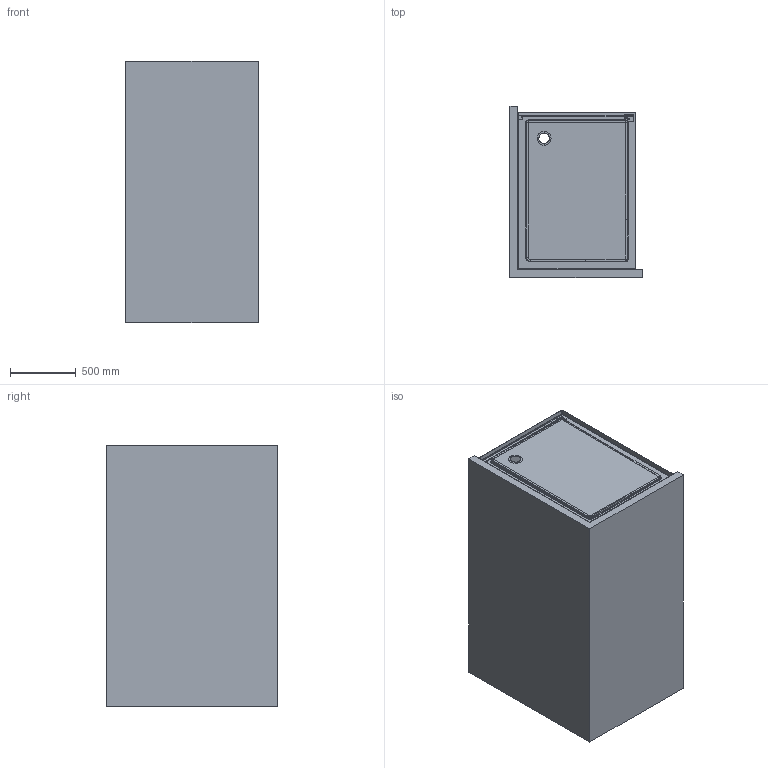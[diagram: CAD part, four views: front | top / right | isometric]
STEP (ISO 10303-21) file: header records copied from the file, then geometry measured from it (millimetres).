
FILE_DESCRIPTION((''),'2;1');
FILE_NAME('1631__ASM','2019-08-23T',('Administrator'),(''),'CREO PARAMETRIC BY PTC INC, 2014190','CREO PARAMETRIC BY PTC INC, 2014190','');
FILE_SCHEMA(('AUTOMOTIVE_DESIGN { 1 0 10303 214 1 1 1 1 }'));
Length unit declared in the file: millimetre
Products named in the file (17): BL_G_2_1_1_1_1; PRT0027_G_3_1_1_1_1; PRT0025DF_G_6_1_1_1_1; 296_G_3_1_1_2_1_1; L295_G_3_1_1_1_1_1; Q_G_5_1_1_1_1_1; HL_1_1_1_1_1; 1200_2_1_1_1_1_1; PRT0028__2_1_1_1_1; GZ1_5_1_1_1_1_1; GZ2I_7_1_1_1_1; DLZ_ASM_14_ASM_1_ASM_1_ASM_1_1__ASM; 1641_ASM_1_ASM_1_ASM_1_1_ASM_1_ASM; 1631_ASM_ASM_1_ASM_1_1_ASM_1_ASM; 1631CCCCCC1_ASM_ASM_1_ASM; PRT0002; 1631__ASM
Assembly tree (16 placements, depth 6):
  1631__ASM
    1631CCCCCC1_ASM_ASM_1_ASM
      1631_ASM_ASM_1_ASM_1_1_ASM_1_ASM
        1641_ASM_1_ASM_1_ASM_1_1_ASM_1_ASM
          DLZ_ASM_14_ASM_1_ASM_1_ASM_1_1__ASM
            BL_G_2_1_1_1_1
            PRT0027_G_3_1_1_1_1
            PRT0025DF_G_6_1_1_1_1
            296_G_3_1_1_2_1_1
            L295_G_3_1_1_1_1_1
            Q_G_5_1_1_1_1_1
            HL_1_1_1_1_1
            1200_2_1_1_1_1_1
            PRT0028__2_1_1_1_1
            GZ1_5_1_1_1_1_1
            GZ2I_7_1_1_1_1
    PRT0002
Bounding box: 1006.27 x 1305.7 x 1990 mm (x, y, z)
Volume: 285051480.1 mm3; surface area: 16364239.4 mm2
Topology: 12 solids, 12 shells, 578 faces, 1475 edges, 887 vertices
Faces by surface type: plane 258, cylinder 216, sphere 43, torus 34, cone 14, bspline 11, revolution 2
Entity records: 18597 total; most frequent: CARTESIAN_POINT 3826, DIRECTION 3022, ORIENTED_EDGE 2858, EDGE_CURVE 1429, AXIS2_PLACEMENT_3D 1071, VERTEX_POINT 887, VECTOR 878, LINE 878
